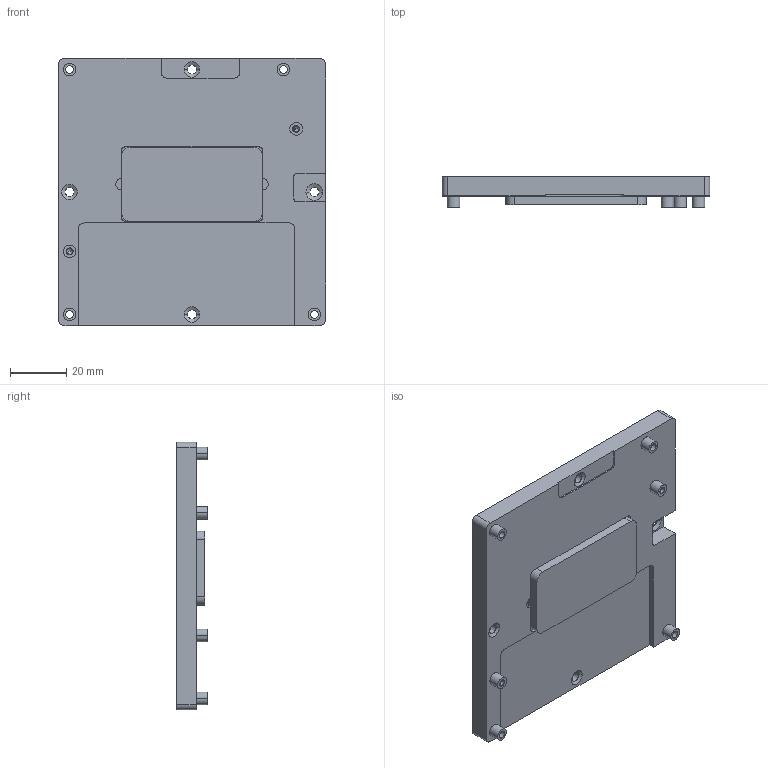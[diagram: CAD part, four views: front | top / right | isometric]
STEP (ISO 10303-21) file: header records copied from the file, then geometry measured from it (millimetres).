
FILE_DESCRIPTION((''),'2;1');
FILE_NAME('E19612X1280000R_ASM','2024-05-22T16:09:50',('gino_hsu'),(''),'CREO PARAMETRIC BY PTC INC, 2023294','CREO PARAMETRIC BY PTC INC, 2023294','');
FILE_SCHEMA(('CONFIG_CONTROL_DESIGN'));
Length unit declared in the file: millimetre
Products named in the file (3): ESM-RPLC-HEATSPERDER-01; ESM-RPLC_HEATSPREADER-CU; E19612X1280000R_ASM
Assembly tree (2 placements, depth 2):
  E19612X1280000R_ASM
    ESM-RPLC-HEATSPERDER-01
    ESM-RPLC_HEATSPREADER-CU
Bounding box: 95 x 11 x 95 mm (x, y, z)
Volume: 60474.9 mm3; surface area: 25257 mm2
Topology: 2 solids, 4 shells, 131 faces, 322 edges, 202 vertices
Faces by surface type: cylinder 64, plane 39, cone 28
Entity records: 3987 total; most frequent: DIRECTION 742, CARTESIAN_POINT 658, ORIENTED_EDGE 628, EDGE_CURVE 318, AXIS2_PLACEMENT_3D 286, VERTEX_POINT 202, VECTOR 170, LINE 170
